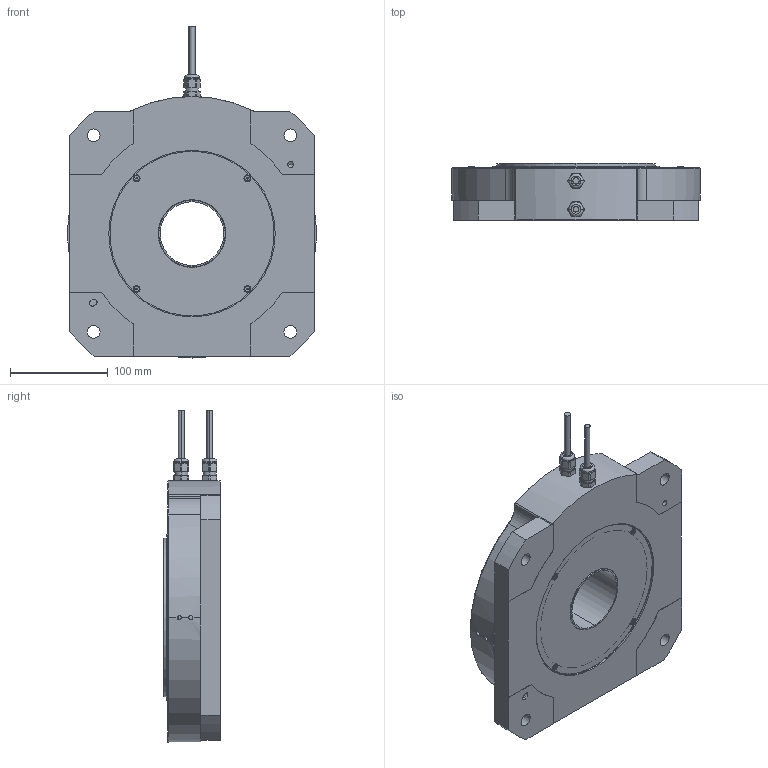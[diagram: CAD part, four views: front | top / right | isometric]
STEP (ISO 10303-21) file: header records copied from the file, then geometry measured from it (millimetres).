
FILE_DESCRIPTION (( 'STEP AP214' ), '1' );
FILE_NAME ('BZA01730.step', '2024-02-05T02:33:17', ( '' ), ( '' ), 'SwSTEP 2.0', 'SolidWorks 2023', '' );
FILE_SCHEMA (( 'AUTOMOTIVE_DESIGN' ));
Length unit declared in the file: millimetre
Products named in the file (1): BZA01730
Bounding box: 254 x 58 x 339 mm (x, y, z)
Volume: 1154067.1 mm3; surface area: 352005.4 mm2
Topology: 17 solids, 17 shells, 797 faces, 2052 edges, 1285 vertices
Faces by surface type: cylinder 455, plane 150, cone 127, torus 40, sphere 22, bspline 3
Entity records: 26155 total; most frequent: CARTESIAN_POINT 6562, DIRECTION 4210, ORIENTED_EDGE 3980, EDGE_CURVE 1990, AXIS2_PLACEMENT_3D 1711, VERTEX_POINT 1285, CIRCLE 916, EDGE_LOOP 905
